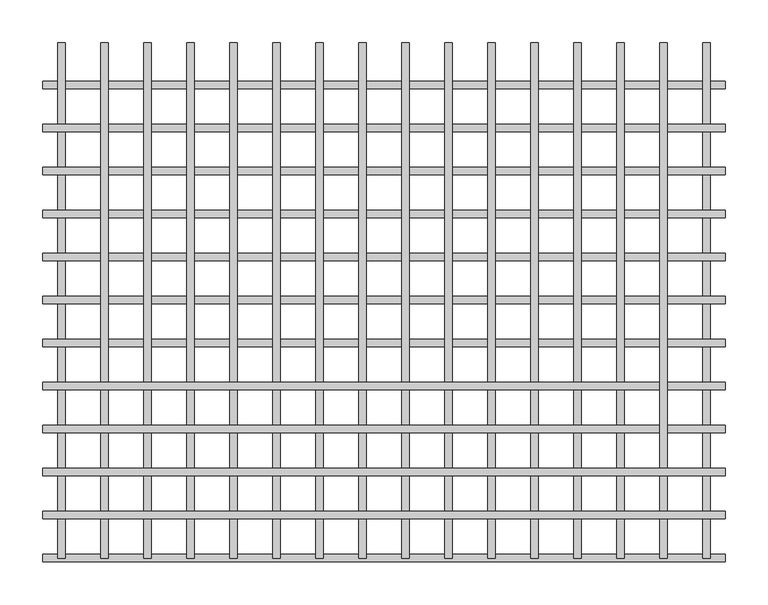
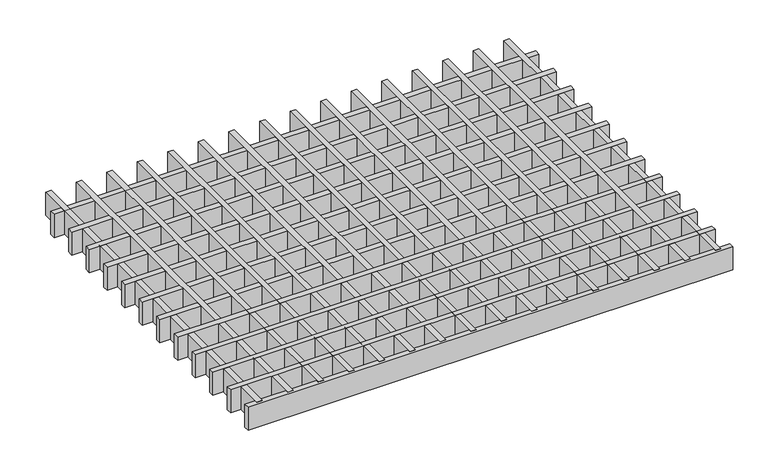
"""IFC4 building model written with IfcOpenShell, lengths in millimetres: proxy geometry, durlum_GEO_panel : durlum_GEO_9_length_cut."""

from ifc_helpers import new_model, si_unit, origin, origin_with_axes, place, context, project, spatial, polyline, outline, extrude, source, transform, mapped, element, save


def generic_models_145bddcd(model_context):
    return source(origin(), model_context, "Body", "SweptSolid", [
        extrude(outline(polyline([(396.5628516, -245.0), (396.5628516, -254.0), (-396.5628516, -254.0), (-396.5628516, -245.0), (396.5628516, -245.0)])), origin_with_axes(), (0.0, 0.0, 1.0), 40.0),
        extrude(outline(polyline([(396.5628516, -195.0), (396.5628516, -204.0), (-396.5628516, -204.0), (-396.5628516, -195.0), (396.5628516, -195.0)])), origin_with_axes(), (0.0, 0.0, 1.0), 40.0),
        extrude(outline(polyline([(320.5, 299.5), (329.5, 299.5), (329.5, -299.5), (320.5, -299.5), (320.5, 299.5)])), origin_with_axes(), (0.0, 0.0, 1.0), 40.0),
        extrude(outline(polyline([(396.5628516, -145.0), (396.5628516, -154.0), (-396.5628516, -154.0), (-396.5628516, -145.0), (396.5628516, -145.0)])), origin_with_axes(), (0.0, 0.0, 1.0), 40.0),
        extrude(outline(polyline([(396.5628516, -95.0), (396.5628516, -104.0), (-396.5628516, -104.0), (-396.5628516, -95.0), (396.5628516, -95.0)])), origin_with_axes(), (0.0, 0.0, 1.0), 40.0),
        extrude(outline(polyline([(270.5, 299.5), (279.5, 299.5), (279.5, -299.5), (270.5, -299.5), (270.5, 299.5)])), origin_with_axes(), (0.0, 0.0, 1.0), 40.0),
        extrude(outline(polyline([(220.5, 299.5), (229.5, 299.5), (229.5, -299.5), (220.5, -299.5), (220.5, 299.5)])), origin_with_axes(), (0.0, 0.0, 1.0), 40.0),
        extrude(outline(polyline([(170.5, 299.5), (179.5, 299.5), (179.5, -299.5), (170.5, -299.5), (170.5, 299.5)])), origin_with_axes(), (0.0, 0.0, 1.0), 40.0),
        extrude(outline(polyline([(120.5, 299.5), (129.5, 299.5), (129.5, -299.5), (120.5, -299.5), (120.5, 299.5)])), origin_with_axes(), (0.0, 0.0, 1.0), 40.0),
        extrude(outline(polyline([(70.5, 299.5), (79.5, 299.5), (79.5, -299.5), (70.5, -299.5), (70.5, 299.5)])), origin_with_axes(), (0.0, 0.0, 1.0), 40.0),
        extrude(outline(polyline([(20.5, 299.5), (29.5, 299.5), (29.5, -299.5), (20.5, -299.5), (20.5, 299.5)])), origin_with_axes(), (0.0, 0.0, 1.0), 40.0),
        extrude(outline(polyline([(-29.5, 299.5), (-20.5, 299.5), (-20.5, -299.5), (-29.5, -299.5), (-29.5, 299.5)])), origin_with_axes(), (0.0, 0.0, 1.0), 40.0),
        extrude(outline(polyline([(-79.5, 299.5), (-70.5, 299.5), (-70.5, -299.5), (-79.5, -299.5), (-79.5, 299.5)])), origin_with_axes(), (0.0, 0.0, 1.0), 40.0),
        extrude(outline(polyline([(-129.5, 299.5), (-120.5, 299.5), (-120.5, -299.5), (-129.5, -299.5), (-129.5, 299.5)])), origin_with_axes(), (0.0, 0.0, 1.0), 40.0),
        extrude(outline(polyline([(-179.5, 299.5), (-170.5, 299.5), (-170.5, -299.5), (-179.5, -299.5), (-179.5, 299.5)])), origin_with_axes(), (0.0, 0.0, 1.0), 40.0),
        extrude(outline(polyline([(-229.5, 299.5), (-220.5, 299.5), (-220.5, -299.5), (-229.5, -299.5), (-229.5, 299.5)])), origin_with_axes(), (0.0, 0.0, 1.0), 40.0),
        extrude(outline(polyline([(-279.5, 299.5), (-270.5, 299.5), (-270.5, -299.5), (-279.5, -299.5), (-279.5, 299.5)])), origin_with_axes(), (0.0, 0.0, 1.0), 40.0),
        extrude(outline(polyline([(-329.5, 299.5), (-320.5, 299.5), (-320.5, -299.5), (-329.5, -299.5), (-329.5, 299.5)])), origin_with_axes(), (0.0, 0.0, 1.0), 40.0),
        extrude(outline(polyline([(396.5628516, -45.0), (396.5628516, -54.0), (-396.5628516, -54.0), (-396.5628516, -45.0), (396.5628516, -45.0)])), origin_with_axes(), (0.0, 0.0, 1.0), 40.0),
        extrude(outline(polyline([(396.5628516, 5.0), (396.5628516, -4.0), (-396.5628516, -4.0), (-396.5628516, 5.0), (396.5628516, 5.0)])), origin_with_axes(), (0.0, 0.0, 1.0), 40.0),
        extrude(outline(polyline([(396.5628516, 55.0), (396.5628516, 46.0), (-396.5628516, 46.0), (-396.5628516, 55.0), (396.5628516, 55.0)])), origin_with_axes(), (0.0, 0.0, 1.0), 40.0),
        extrude(outline(polyline([(396.5628516, 105.0), (396.5628516, 96.0), (-396.5628516, 96.0), (-396.5628516, 105.0), (396.5628516, 105.0)])), origin_with_axes(), (0.0, 0.0, 1.0), 40.0),
        extrude(outline(polyline([(396.5628516, 155.0), (396.5628516, 146.0), (-396.5628516, 146.0), (-396.5628516, 155.0), (396.5628516, 155.0)])), origin_with_axes(), (0.0, 0.0, 1.0), 40.0),
        extrude(outline(polyline([(396.5628516, 205.0), (396.5628516, 196.0), (-396.5628516, 196.0), (-396.5628516, 205.0), (396.5628516, 205.0)])), origin_with_axes(), (0.0, 0.0, 1.0), 40.0),
        extrude(outline(polyline([(370.5, 299.5), (379.5, 299.5), (379.5, -299.5), (370.5, -299.5), (370.5, 299.5)])), origin_with_axes(), (0.0, 0.0, 1.0), 40.0),
        extrude(outline(polyline([(-379.5, 299.5), (-370.5, 299.5), (-370.5, -299.5), (-379.5, -299.5), (-379.5, 299.5)])), origin_with_axes(), (0.0, 0.0, 1.0), 40.0),
        extrude(outline(polyline([(396.5628516, -295.0), (396.5628516, -304.0), (-396.5628516, -304.0), (-396.5628516, -295.0), (396.5628516, -295.0)])), origin_with_axes(), (0.0, 0.0, 1.0), 40.0),
        extrude(outline(polyline([(396.5628516, 255.0), (396.5628516, 246.0), (-396.5628516, 246.0), (-396.5628516, 255.0), (396.5628516, 255.0)])), origin_with_axes(), (0.0, 0.0, 1.0), 40.0),
    ])


if __name__ == "__main__":
    model = new_model("IFC4")
    model_context = context("Model", 3, world=origin())
    ifc_project = project(units=[si_unit("LENGTHUNIT", "METRE", prefix="MILLI")], contexts=[model_context])
    site = spatial("IfcSite", under=ifc_project)
    building = spatial("IfcBuilding", under=site)
    placement = place(None, origin())
    generic_models_shape = generic_models_145bddcd(model_context)
    element("IfcBuildingElementProxy", 1, Name="durlum_GEO_panel : durlum_GEO_9_length_cut", ObjectType="durlum_GEO_panel : durlum_GEO_9_length_cut", at=placement, inside=building, context=model_context, shape_type="MappedRepresentation", body=[
        mapped(generic_models_shape, transform((0.0, 0.0, 0.0), x_axis=(1.0, 0.0, 0.0), y_axis=(0.0, 1.0, 0.0), z_axis=(0.0, 0.0, 1.0))),
    ])
    save(model, "model.ifc")
